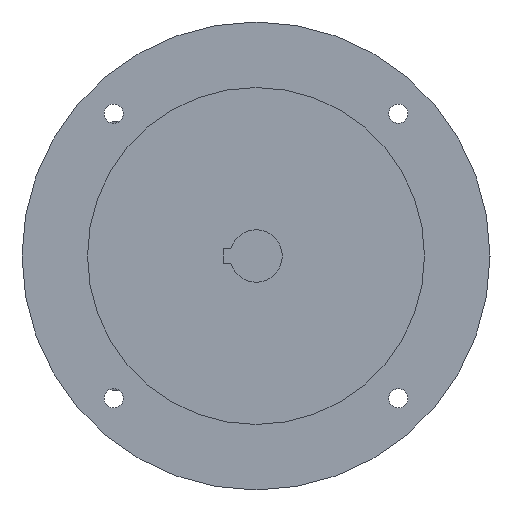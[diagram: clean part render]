
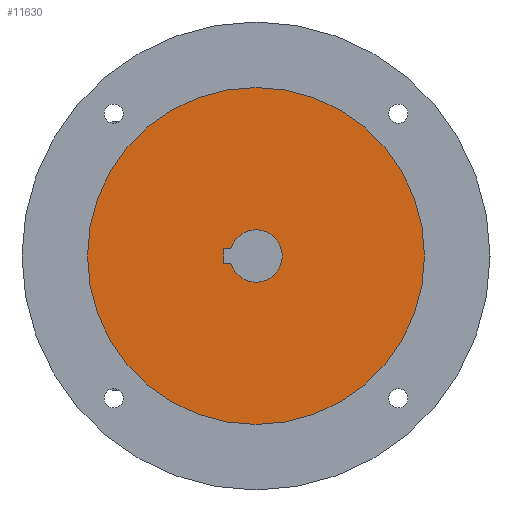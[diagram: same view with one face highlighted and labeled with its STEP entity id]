
A CAD part, left-side view. The second image highlights one B-rep face of the part: STEP entity #11630.
In plain terms, the highlighted planar face has unit normal (-1, 0, 0).
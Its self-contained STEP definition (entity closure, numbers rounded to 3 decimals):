
#3102=CARTESIAN_POINT('',(-125.5,79.,0.));
#3103=DIRECTION('',(-1.,0.,0.));
#3104=DIRECTION('',(0.,1.,0.));
#3105=AXIS2_PLACEMENT_3D('',#3102,#3103,#3104);
#3107=CARTESIAN_POINT('',(-125.5,79.,0.));
#3108=DIRECTION('',(1.,0.,0.));
#3109=DIRECTION('',(0.,1.,0.));
#3110=AXIS2_PLACEMENT_3D('',#3107,#3108,#3109);
#3112=DIRECTION('',(0.,-1.,0.));
#3113=VECTOR('',#3112,3.884);
#3114=CARTESIAN_POINT('',(-125.5,96.3,-4.));
#3115=LINE('',#3114,#3113);
#3116=CARTESIAN_POINT('',(-125.5,79.,0.));
#3117=DIRECTION('',(-1.,0.,0.));
#3118=DIRECTION('',(0.,0.958,-0.286));
#3119=AXIS2_PLACEMENT_3D('',#3116,#3117,#3118);
#3121=DIRECTION('',(0.,1.,0.));
#3122=VECTOR('',#3121,3.884);
#3123=CARTESIAN_POINT('',(-125.5,92.416,4.));
#3124=LINE('',#3123,#3122);
#3125=DIRECTION('',(0.,0.,-1.));
#3126=VECTOR('',#3125,8.);
#3127=CARTESIAN_POINT('',(-125.5,96.3,4.));
#3128=LINE('',#3127,#3126);
#7265=CARTESIAN_POINT('',(-125.5,169.,0.));
#7267=VERTEX_POINT('',#7265);
#7273=CARTESIAN_POINT('',(-125.5,-11.,0.));
#7275=VERTEX_POINT('',#7273);
#7320=CARTESIAN_POINT('',(-125.5,96.3,-4.));
#7321=CARTESIAN_POINT('',(-125.5,92.416,-4.));
#7322=VERTEX_POINT('',#7320);
#7323=VERTEX_POINT('',#7321);
#7324=CARTESIAN_POINT('',(-125.5,92.416,4.));
#7325=VERTEX_POINT('',#7324);
#7326=CARTESIAN_POINT('',(-125.5,96.3,4.));
#7327=VERTEX_POINT('',#7326);
#11611=CARTESIAN_POINT('',(-125.5,79.,0.));
#11612=DIRECTION('',(1.,0.,0.));
#11613=DIRECTION('',(0.,-1.,0.));
#11614=AXIS2_PLACEMENT_3D('',#11611,#11612,#11613);
#11615=PLANE('',#11614);
#11616=ORIENTED_EDGE('',*,*,#11590,.F.);
#11617=ORIENTED_EDGE('',*,*,#11606,.T.);
#11618=EDGE_LOOP('',(#11616,#11617));
#11619=FACE_OUTER_BOUND('',#11618,.F.);
#11621=ORIENTED_EDGE('',*,*,#11620,.T.);
#11623=ORIENTED_EDGE('',*,*,#11622,.T.);
#11625=ORIENTED_EDGE('',*,*,#11624,.T.);
#11627=ORIENTED_EDGE('',*,*,#11626,.T.);
#11628=EDGE_LOOP('',(#11621,#11623,#11625,#11627));
#11629=FACE_BOUND('',#11628,.F.);
#11630=ADVANCED_FACE('',(#11619,#11629),#11615,.F.);
#3106=CIRCLE('',#3105,90.);
#3111=CIRCLE('',#3110,90.);
#3120=CIRCLE('',#3119,14.);
#11590=EDGE_CURVE('',#7267,#7275,#3106,.T.);
#11606=EDGE_CURVE('',#7267,#7275,#3111,.T.);
#11620=EDGE_CURVE('',#7322,#7323,#3115,.T.);
#11622=EDGE_CURVE('',#7323,#7325,#3120,.T.);
#11624=EDGE_CURVE('',#7325,#7327,#3124,.T.);
#11626=EDGE_CURVE('',#7327,#7322,#3128,.T.);
